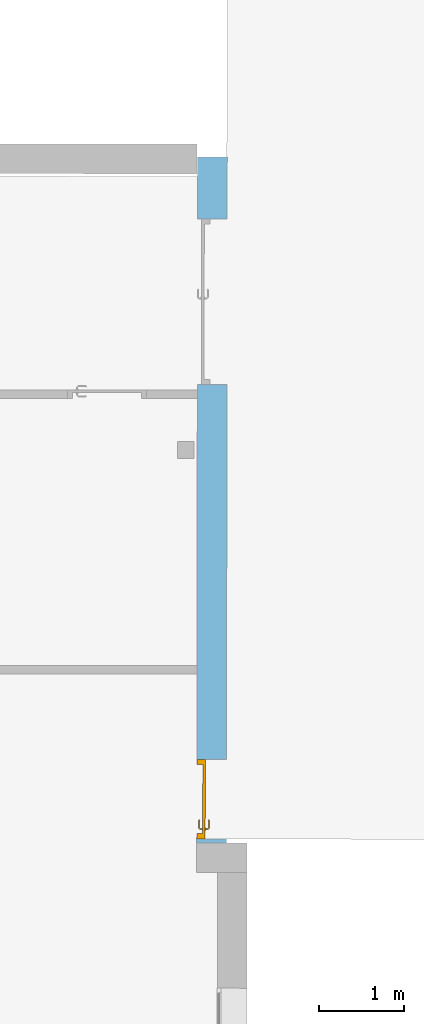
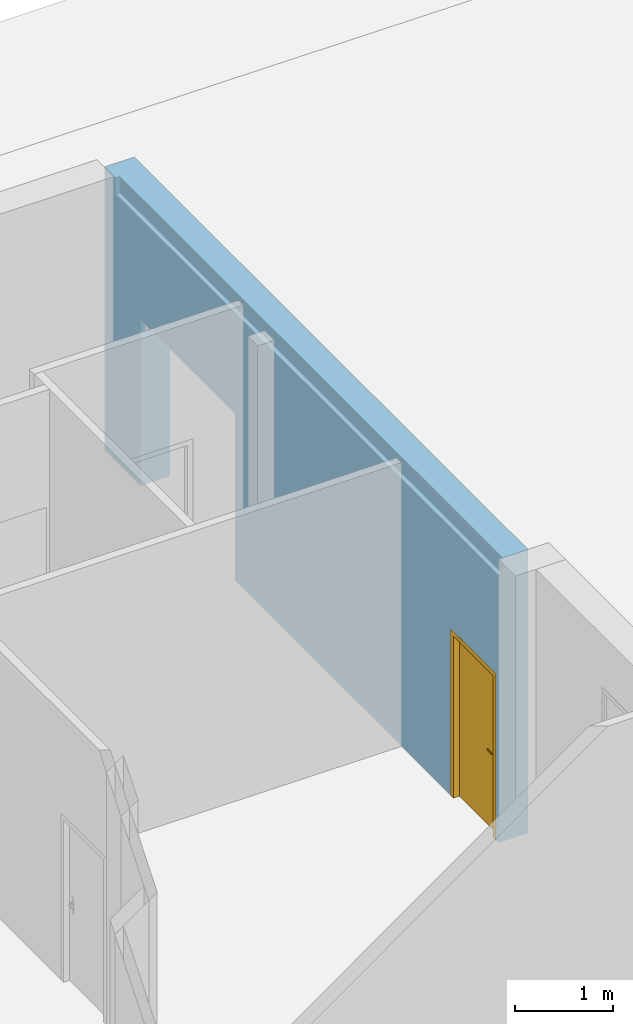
# One storey, part 95 of 101: 1 door, 2 openings, plus 1 element that does not belong to this part.
"""IFC2X3 building model written with IfcOpenShell, lengths in metres."""

from ifc_helpers import new_model, entity, si_unit, converted_unit, derived_unit, direction, frame, frame_2d, origin, place, context, subcontext, project, spatial, rectangle, extrude, faceted_brep, source, transform, mapped, material, material_list, layer, layer_set, type_object, type_shapes, element, fill, save


model = new_model("IFC2X3")

# Units and contexts
model_context = context("Model", 3, precision=1e-05, world=origin(), true_north=direction((6.123233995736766e-17, 1.0)))
body_context = subcontext(model_context, "Body", "Model", "MODEL_VIEW")
ifc_project = project(units=[si_unit("LENGTHUNIT", "METRE"), si_unit("AREAUNIT", "SQUARE_METRE"), converted_unit("PLANEANGLEUNIT", "DEGREE", entity("IfcPlaneAngleMeasure", 0.017453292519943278), si_unit("PLANEANGLEUNIT", "RADIAN"), dimensions=[0, 0, 0, 0, 0, 0, 0]), derived_unit("THERMALTRANSMITTANCEUNIT", [(si_unit("MASSUNIT", "GRAM", prefix="KILO"), 1), (si_unit("THERMODYNAMICTEMPERATUREUNIT", "KELVIN"), -1), (si_unit("TIMEUNIT", "SECOND"), -3)])], contexts=[model_context])

# Site, building, storey
site_placement = place(None, frame((1253.6752467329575, 2072.143113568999, 91.49999999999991), z_axis=(0.0, 0.0, 1.0), x_axis=(0.7237211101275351, 0.6900925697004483, 0.0)))
site = spatial("IfcSite", under=ifc_project, at=site_placement, Name="Surface", CompositionType="ELEMENT")
building_placement = place(site_placement, origin())
building = spatial("IfcBuilding", under=site, at=building_placement, CompositionType="ELEMENT")
storey_placement = place(building_placement, origin())
storey = spatial("IfcBuildingStorey", under=building, at=storey_placement, Name="0- Rdc", CompositionType="ELEMENT", Elevation=-5.764692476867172e-13)

# Wall, openings, door
ifc_material_1 = material(Name="OMD_Béton blanc")
ifc_layer = layer(ifc_material_1, 0.35)
ifc_layer_set = layer_set([ifc_layer], Name="Mur de base:MUR 35")
wall_type = type_object("IfcWallType", Name="Mur de base:MUR 35", PredefinedType="STANDARD", material=ifc_layer_set)
wall_placement = place(storey_placement, frame((201.35529017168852, -6.0522402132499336, 0.0), z_axis=(0.0, 0.0, 1.0), x_axis=(-0.6909838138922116, -0.7228702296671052, 0.0)))
wall = element("IfcWall", 1, at=wall_placement, inside=storey, type_object=wall_type, Name="Mur de base:MUR 35", ObjectType="Mur de base:MUR 35", context=body_context, shape_type="Brep", body=[
    faceted_brep([(0.0, -0.17500000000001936, 3.5499999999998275), (0.0, -0.17500000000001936, 0.0), (0.7314537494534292, -0.17500000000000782, 0.0), (0.7314537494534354, -0.1750000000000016, 2.085), (2.6814537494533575, -0.17499999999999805, 2.085), (2.6814537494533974, -0.17500000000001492, 0.0), (2.7490063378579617, -0.17500000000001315, 0.0), (2.8490063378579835, -0.17500000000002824, 0.0), (5.998901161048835, -0.17500000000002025, 0.0), (6.098901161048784, -0.1749999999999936, 0.0), (7.106401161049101, -0.17500000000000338, 0.0), (7.1064011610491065, -0.17499999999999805, 2.0850000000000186), (8.041401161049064, -0.17499999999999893, 2.0850000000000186), (8.04140116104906, -0.1750000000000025, 0.0), (8.088901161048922, -0.17500000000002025, 0.0), (8.088901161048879, -0.17500000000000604, 3.3499999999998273), (0.22730187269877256, -0.1750000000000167, 3.3499999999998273), (0.22730187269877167, -0.1750000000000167, 3.5499999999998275), (0.2263576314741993, -0.1750000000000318, 3.5499999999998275), (0.0, 0.1749999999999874, 0.0), (0.0, 0.1749999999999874, 3.5499999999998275), (0.2263576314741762, 0.1749999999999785, 3.5499999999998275), (0.7714537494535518, 0.17499999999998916, 3.5499999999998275), (2.3214537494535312, 0.17499999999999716, 3.5499999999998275), (8.04452833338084, 0.1749999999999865, 3.5499999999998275), (8.088901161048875, 0.17499999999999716, 3.5499999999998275), (8.088901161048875, 0.17499999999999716, 0.0), (8.044528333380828, 0.1749999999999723, 0.0), (8.04140116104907, 0.17499999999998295, 0.0), (8.04140116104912, 0.17500000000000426, 2.0850000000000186), (7.106401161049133, 0.17499999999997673, 2.0850000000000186), (7.106401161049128, 0.1749999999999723, 0.0), (2.68145374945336, 0.17500000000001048, 0.0), (2.6814537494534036, 0.17499999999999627, 2.085), (0.7314537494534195, 0.17499999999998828, 2.085), (0.7314537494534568, 0.17499999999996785, 0.0), (0.22730187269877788, -0.1249999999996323, 3.5499999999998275), (8.088901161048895, -0.1250000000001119, 3.5499999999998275), (8.088901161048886, -0.12500000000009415, 3.3499999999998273), (0.22730187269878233, -0.12499999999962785, 3.3499999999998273)], [[[0, 1, 2, 3, 4, 5, 6, 7, 8, 9, 10, 11, 12, 13, 14, 15, 16, 17, 18]], [[19, 20, 21, 22, 23, 24, 25, 26, 27, 28, 29, 30, 31, 32, 33, 34, 35]], [[1, 0, 20, 19]], [[25, 24, 23, 22, 21, 20, 0, 18, 17, 36, 37]], [[26, 14, 13, 28, 27]], [[26, 25, 37, 38, 15, 14]], [[4, 33, 32, 5]], [[33, 4, 3, 34]], [[34, 3, 2, 35]], [[13, 12, 29, 28]], [[12, 11, 30, 29]], [[11, 10, 31, 30]], [[38, 39, 16, 15]], [[39, 36, 17, 16]], [[36, 39, 38, 37]], [[5, 32, 31, 10, 9, 8, 7, 6]], [[1, 19, 35, 2]]]),
])
opening_1_placement = place(wall_placement, frame((2.681453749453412, 0.1750000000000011, 0.0)))
element("IfcOpeningElement", 2, at=opening_1_placement, cuts=wall, Name="OMD_Porte 2V tunnel:double 180x204:1", ObjectType="Opening", context=body_context, shape_type="SweptSolid", body=[
    extrude(rectangle(XDim=2.085, YDim=1.9499999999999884, at=frame_2d((1.0425, 0.974999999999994), x_axis=(1.0, 0.0))), frame((0.0, 0.0, 0.0), z_axis=(0.0, -1.0, 0.0), x_axis=(0.0, 0.0, 1.0)), (0.0, 0.0, 1.0), 0.35),
])
opening_2_placement = place(wall_placement, frame((7.1064011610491, -0.17500000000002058, 0.0)))
opening_2 = element("IfcOpeningElement", 3, at=opening_2_placement, cuts=wall, Name="OMD_Porte 1V tunnel:80x204:1", ObjectType="Opening", context=body_context, shape_type="SweptSolid", body=[
    extrude(rectangle(XDim=2.0850000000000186, YDim=0.9349999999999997, at=frame_2d((1.0425000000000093, 0.46749999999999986), x_axis=(1.0, 0.0))), frame((0.0, 0.0, 0.0), z_axis=(0.0, 1.0, 0.0), x_axis=(0.0, 0.0, 1.0)), (0.0, 0.0, 1.0), 0.35),
])
ifc_material_2 = material(Name="Porte - Poignée")
ifc_material_3 = material(Name="OMD_Peinture mur")
ifc_material_4 = material(Name="OMD_Bois")
ifc_material_list = material_list([ifc_material_2, ifc_material_3, ifc_material_4])
door_style = type_object("IfcDoorStyle", Name="OMD_Porte 1V tunnel:80x204", ConstructionType="NOTDEFINED", OperationType="NOTDEFINED", ParameterTakesPrecedence=False, Sizeable=False, material=ifc_material_list)
shared_shape = source(origin(), body_context, "Body", "Brep", [
    faceted_brep([(0.21297470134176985, 0.28500000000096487, 1.0077804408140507), (0.20900000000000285, 0.28500000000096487, 1.0069999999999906), (0.2089999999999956, 0.28500000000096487, 0.9929999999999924), (0.21297470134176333, 0.28500000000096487, 0.9922195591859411), (0.21702529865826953, 0.28500000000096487, 0.9922195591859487), (0.22100000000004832, 0.28500000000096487, 0.9930000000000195), (0.22100000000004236, 0.28500000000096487, 1.0069999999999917), (0.21702529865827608, 0.28500000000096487, 1.007780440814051), (0.22100000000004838, 0.3074852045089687, 0.9930000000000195), (0.22100000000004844, 0.3074852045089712, 1.0069999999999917), (0.21702529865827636, 0.3091315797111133, 1.007780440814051), (0.23083890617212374, 0.3229451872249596, 1.007780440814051), (0.2291610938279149, 0.3269957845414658, 1.0077804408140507), (0.21297470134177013, 0.3108093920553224, 1.0077804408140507), (0.3206847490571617, 0.3164673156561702, 1.0077804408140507), (0.3235489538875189, 0.3193315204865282, 1.0077804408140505), (0.315884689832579, 0.3269957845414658, 1.0077804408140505), (0.3142068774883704, 0.3229451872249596, 1.0077804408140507), (0.20900000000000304, 0.31245576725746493, 1.0069999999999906), (0.20900000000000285, 0.31245576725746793, 0.9929999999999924), (0.21297470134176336, 0.31080939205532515, 0.9922195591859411), (0.22916109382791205, 0.32699578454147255, 0.9922195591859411), (0.2308389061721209, 0.32294518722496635, 0.9922195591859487), (0.21702529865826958, 0.3091315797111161, 0.9922195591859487), (0.32354895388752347, 0.3193315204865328, 0.9922195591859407), (0.3206847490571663, 0.3164673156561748, 0.9922195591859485), (0.31420687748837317, 0.32294518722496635, 0.9922195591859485), (0.3158846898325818, 0.32699578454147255, 0.9922195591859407), (0.23248528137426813, 0.31897048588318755, 0.9930000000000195), (0.23248528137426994, 0.3189704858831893, 1.0069999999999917), (0.22751471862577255, 0.3309704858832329, 1.0069999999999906), (0.22751471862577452, 0.3309704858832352, 0.9929999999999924), (0.27252289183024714, 0.3189704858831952, 0.9930000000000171), (0.3125605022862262, 0.31897048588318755, 0.9930000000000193), (0.3125605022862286, 0.3189704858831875, 1.0069999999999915), (0.27252289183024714, 0.3189704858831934, 1.0069999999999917), (0.27252289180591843, 0.32512492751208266, 1.0078781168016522), (0.3175310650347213, 0.3309704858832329, 1.0069999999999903), (0.2776005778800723, 0.3309704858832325, 1.0069999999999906), (0.3175310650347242, 0.3309704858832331, 0.9929999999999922), (0.2674452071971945, 0.33097048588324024, 0.9929999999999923), (0.27252289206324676, 0.32512492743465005, 0.9921218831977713), (0.3178742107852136, 0.3136567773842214, 0.9930000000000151), (0.32635949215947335, 0.32214205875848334, 0.99299999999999), (0.32635949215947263, 0.3221420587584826, 1.0069999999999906), (0.3178742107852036, 0.31365677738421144, 1.0069999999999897)], [[[0, 1, 2, 3, 4, 5, 6, 7]], [[6, 5, 8, 9]], [[9, 10, 7, 6]], [[10, 11, 12, 13, 0, 7]], [[14, 15, 16, 17]], [[13, 18, 1, 0]], [[2, 1, 18, 19]], [[19, 20, 3, 2]], [[20, 21, 22, 23, 4, 3]], [[24, 25, 26, 27]], [[23, 8, 5, 4]], [[9, 8, 28, 29]], [[29, 11, 10, 9]], [[12, 30, 18, 13]], [[19, 18, 30, 31]], [[31, 21, 20, 19]], [[22, 28, 8, 23]], [[29, 28, 32, 33, 34, 35]], [[11, 35, 36]], [[16, 37, 38]], [[30, 12, 38]], [[38, 12, 36]], [[36, 35, 17]], [[17, 16, 36]], [[35, 11, 29]], [[34, 17, 35]], [[11, 36, 12]], [[38, 36, 16]], [[31, 30, 38, 37, 39, 40]], [[40, 41, 21]], [[41, 40, 27]], [[21, 31, 40]], [[39, 27, 40]], [[41, 32, 22]], [[22, 21, 41]], [[26, 32, 41]], [[28, 22, 32]], [[32, 26, 33]], [[26, 41, 27]], [[42, 25, 24, 43, 44, 15, 14, 45]], [[34, 33, 42, 45]], [[45, 14, 17, 34]], [[15, 44, 37, 16]], [[39, 37, 44, 43]], [[43, 24, 27, 39]], [[25, 42, 33, 26]]]),
    faceted_brep([(0.21297470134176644, 0.24500000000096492, 1.0077804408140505), (0.2170252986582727, 0.24500000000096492, 1.007780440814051), (0.2210000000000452, 0.24500000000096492, 1.006999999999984), (0.22100000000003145, 0.24500000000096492, 0.9930000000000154), (0.21702529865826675, 0.24500000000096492, 0.9922195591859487), (0.21297470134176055, 0.24500000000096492, 0.992219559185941), (0.20899999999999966, 0.24500000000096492, 0.992999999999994), (0.20900000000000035, 0.24500000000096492, 1.0069999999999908), (0.20900000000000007, 0.2173490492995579, 1.0069999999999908), (0.21297470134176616, 0.21899542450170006, 1.0077804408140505), (0.22902358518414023, 0.20294654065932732, 1.0077804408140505), (0.23070139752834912, 0.20699713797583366, 1.007780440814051), (0.21702529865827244, 0.22067323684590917, 1.007780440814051), (0.3235218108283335, 0.2106108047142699, 1.0077804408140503), (0.32065760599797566, 0.21347500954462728, 1.0077804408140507), (0.3141797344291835, 0.20699713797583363, 1.0077804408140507), (0.3158575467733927, 0.20294654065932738, 1.0077804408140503), (0.2210000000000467, 0.22231961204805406, 1.0069999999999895), (0.22100000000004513, 0.22231961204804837, 0.9930000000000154), (0.21702529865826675, 0.22067323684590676, 0.9922195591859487), (0.2307013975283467, 0.2069971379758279, 0.9922195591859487), (0.22902358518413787, 0.20294654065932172, 0.992219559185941), (0.21297470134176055, 0.21899542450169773, 0.992219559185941), (0.3206576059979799, 0.21347500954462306, 0.9922195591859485), (0.3235218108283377, 0.21061080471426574, 0.9922195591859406), (0.315857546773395, 0.20294654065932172, 0.9922195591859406), (0.3141797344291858, 0.20699713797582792, 0.9922195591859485), (0.20899999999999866, 0.21734904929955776, 0.9929999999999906), (0.22737720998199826, 0.19897183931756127, 1.0069999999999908), (0.23234777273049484, 0.2109718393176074, 1.0069999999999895), (0.23234777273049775, 0.2109718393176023, 0.9930000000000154), (0.22737720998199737, 0.19897183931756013, 0.9929999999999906), (0.2673076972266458, 0.19897183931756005, 1.0069999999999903), (0.2724405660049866, 0.20481719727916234, 1.0078781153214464), (0.3175039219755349, 0.19897183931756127, 1.0069999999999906), (0.2724405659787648, 0.21097183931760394, 1.0069999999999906), (0.31253335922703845, 0.21097183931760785, 1.0069999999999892), (0.31253335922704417, 0.2109718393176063, 0.9930000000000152), (0.27244056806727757, 0.21097183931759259, 0.9930000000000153), (0.2724405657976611, 0.20481719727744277, 0.9921218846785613), (0.3175039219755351, 0.19897183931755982, 0.9929999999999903), (0.27757344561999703, 0.19897183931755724, 0.9929999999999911), (0.3178470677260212, 0.2162855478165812, 1.0069999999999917), (0.3263323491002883, 0.20780026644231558, 1.0069999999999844), (0.32633234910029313, 0.20780026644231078, 0.9929999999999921), (0.31784706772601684, 0.2162855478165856, 0.9930000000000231)], [[[0, 1, 2, 3, 4, 5, 6, 7]], [[8, 9, 0, 7]], [[9, 10, 11, 12, 1, 0]], [[13, 14, 15, 16]], [[12, 17, 2, 1]], [[3, 2, 17, 18]], [[18, 19, 4, 3]], [[19, 20, 21, 22, 5, 4]], [[23, 24, 25, 26]], [[22, 27, 6, 5]], [[7, 6, 27, 8]], [[28, 10, 9, 8]], [[11, 29, 17, 12]], [[18, 17, 29, 30]], [[30, 20, 19, 18]], [[21, 31, 27, 22]], [[8, 27, 31, 28]], [[32, 33, 10]], [[33, 32, 16]], [[10, 28, 32]], [[34, 16, 32]], [[33, 35, 11]], [[11, 10, 33]], [[15, 35, 33]], [[29, 11, 35]], [[35, 15, 36]], [[15, 33, 16]], [[30, 29, 35, 36, 37, 38]], [[20, 38, 39]], [[25, 40, 41]], [[31, 21, 41]], [[41, 21, 39]], [[39, 38, 26]], [[26, 25, 39]], [[38, 20, 30]], [[37, 26, 38]], [[20, 39, 21]], [[41, 39, 25]], [[28, 31, 41, 40, 34, 32]], [[42, 14, 13, 43, 44, 24, 23, 45]], [[43, 13, 16, 34]], [[14, 42, 36, 15]], [[37, 36, 42, 45]], [[45, 23, 26, 37]], [[24, 44, 40, 25]], [[34, 40, 44, 43]]]),
    faceted_brep([(0.22535276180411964, 0.28000000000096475, 0.8660039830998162), (0.2350000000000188, 0.2800000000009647, 0.8700000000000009), (0.2350000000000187, 0.2800000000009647, 1.0800000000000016), (0.22535276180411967, 0.28000000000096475, 1.0839960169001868), (0.21500000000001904, 0.28000000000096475, 1.0853589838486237), (0.20464723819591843, 0.2800000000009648, 1.0839960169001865), (0.19500000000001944, 0.2800000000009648, 1.0800000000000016), (0.19500000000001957, 0.2800000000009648, 0.8700000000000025), (0.20464723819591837, 0.2800000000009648, 0.866003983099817), (0.21500000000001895, 0.28000000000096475, 0.8646410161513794), (0.22535276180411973, 0.28500000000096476, 1.0839960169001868), (0.2350000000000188, 0.2850000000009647, 1.0800000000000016), (0.23500000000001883, 0.2850000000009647, 0.8700000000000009), (0.22535276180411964, 0.28500000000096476, 0.8660039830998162), (0.21500000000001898, 0.28500000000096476, 0.8646410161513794), (0.20464723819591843, 0.2850000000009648, 0.866003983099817), (0.19500000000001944, 0.2850000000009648, 0.8700000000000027), (0.19500000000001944, 0.2850000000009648, 1.0800000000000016), (0.20464723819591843, 0.2850000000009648, 1.0839960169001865), (0.21500000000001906, 0.28500000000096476, 1.0853589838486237)], [[[0, 1, 2, 3, 4, 5, 6, 7, 8, 9]], [[10, 11, 12, 13, 14, 15, 16, 17, 18, 19]], [[11, 10, 3, 2]], [[3, 10, 19, 4]], [[19, 18, 5, 4]], [[18, 17, 6, 5]], [[7, 6, 17, 16]], [[16, 15, 8, 7]], [[8, 15, 14, 9]], [[14, 13, 0, 9]], [[13, 12, 1, 0]], [[2, 1, 12, 11]]]),
    faceted_brep([(0.2253527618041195, 0.24500000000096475, 0.8660039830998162), (0.2350000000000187, 0.2450000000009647, 0.8700000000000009), (0.23500000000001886, 0.2450000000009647, 1.0800000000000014), (0.22535276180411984, 0.24500000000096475, 1.0839960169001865), (0.21500000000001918, 0.24500000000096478, 1.0853589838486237), (0.20464723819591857, 0.2450000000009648, 1.0839960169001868), (0.19500000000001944, 0.24500000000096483, 1.0800000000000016), (0.1950000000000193, 0.24500000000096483, 0.8700000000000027), (0.20464723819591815, 0.2450000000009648, 0.8660039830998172), (0.21500000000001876, 0.24500000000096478, 0.8646410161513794), (0.22535276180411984, 0.25000000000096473, 1.0839960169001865), (0.2350000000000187, 0.25000000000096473, 1.0800000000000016), (0.2350000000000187, 0.25000000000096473, 0.8700000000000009), (0.2253527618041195, 0.25000000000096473, 0.8660039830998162), (0.21500000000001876, 0.2500000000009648, 0.8646410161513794), (0.20464723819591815, 0.25000000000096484, 0.8660039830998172), (0.1950000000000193, 0.25000000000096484, 0.8700000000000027), (0.19500000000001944, 0.25000000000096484, 1.0800000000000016), (0.20464723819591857, 0.25000000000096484, 1.0839960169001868), (0.21500000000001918, 0.2500000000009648, 1.0853589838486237)], [[[0, 1, 2, 3, 4, 5, 6, 7, 8, 9]], [[10, 11, 12, 13, 14, 15, 16, 17, 18, 19]], [[16, 15, 8, 7]], [[8, 15, 14, 9]], [[14, 13, 0, 9]], [[13, 12, 1, 0]], [[2, 1, 12, 11]], [[11, 10, 3, 2]], [[3, 10, 19, 4]], [[19, 18, 5, 4]], [[18, 17, 6, 5]], [[7, 6, 17, 16]]]),
    faceted_brep([(0.14500000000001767, 0.2800000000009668, 0.0), (0.990000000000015, 0.2800000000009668, 0.0), (0.990000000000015, 0.25000000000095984, 0.0), (0.14500000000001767, 0.25000000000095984, 0.0), (0.14500000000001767, 0.2800000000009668, 2.04), (0.14500000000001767, 0.25000000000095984, 2.04), (0.990000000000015, 0.25000000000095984, 2.04), (0.990000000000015, 0.2800000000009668, 2.04)], [[[0, 1, 2, 3]], [[4, 0, 3, 5]], [[5, 3, 2, 6]], [[6, 2, 1, 7]], [[7, 1, 0, 4]], [[4, 5, 6, 7]]]),
    faceted_brep([(0.10000000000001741, 0.2500000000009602, 0.0), (0.10000000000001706, 0.3500000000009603, 0.0), (0.16000000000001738, 0.3500000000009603, 0.0), (0.16000000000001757, 0.2800000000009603, 0.0), (0.1450000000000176, 0.2800000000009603, 0.0), (0.14500000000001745, 0.2500000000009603, 0.0), (0.14500000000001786, 0.2500000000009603, 2.0399999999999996), (0.990000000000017, 0.250000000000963, 2.0399999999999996), (0.9900000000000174, 0.250000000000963, 0.0), (1.0350000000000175, 0.2500000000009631, 0.0), (1.0350000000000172, 0.2500000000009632, 2.085), (0.10000000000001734, 0.2500000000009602, 2.0850000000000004), (0.1450000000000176, 0.2800000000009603, 2.0399999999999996), (0.16000000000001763, 0.2800000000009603, 2.025), (0.9750000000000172, 0.280000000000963, 2.0250000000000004), (0.9750000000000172, 0.280000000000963, 0.0), (0.990000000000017, 0.280000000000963, 0.0), (0.990000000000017, 0.28000000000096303, 2.0399999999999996), (0.1600000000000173, 0.3500000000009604, 2.025), (0.1000000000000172, 0.3500000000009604, 2.085), (1.035000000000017, 0.3500000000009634, 2.085), (1.035000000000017, 0.35000000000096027, 0.0), (0.9750000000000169, 0.3500000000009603, 0.0), (0.9750000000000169, 0.3500000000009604, 2.025)], [[[0, 1, 2, 3, 4, 5]], [[5, 6, 7, 8, 9, 10, 11, 0]], [[4, 12, 6, 5]], [[3, 13, 14, 15, 16, 17, 12, 4]], [[2, 18, 13, 3]], [[1, 19, 20, 21, 22, 23, 18, 2]], [[0, 11, 19, 1]], [[10, 9, 21, 20]], [[9, 8, 16, 15, 22, 21]], [[17, 16, 8, 7]], [[23, 22, 15, 14]], [[12, 17, 7, 6]], [[18, 23, 14, 13]], [[11, 10, 20, 19]]]),
])
type_shapes(door_style, [shared_shape])
door_placement = place(opening_2_placement, frame((1.0350000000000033, 0.35000000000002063, 0.0), z_axis=(0.0, 0.0, 1.0), x_axis=(-1.0, 0.0, 0.0)))
door = element("IfcDoor", 4, at=door_placement, inside=storey, type_object=door_style, material=ifc_material_list, Name="OMD_Porte 1V tunnel:80x204", ObjectType="OMD_Porte 1V tunnel:80x204", OverallHeight=2.0850000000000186, OverallWidth=0.9350000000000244, context=body_context, shape_type="MappedRepresentation", body=[
    mapped(shared_shape, transform((0.0, 0.0, 0.0), scale=1.0)),
])
fill(opening_2, door)

save(model, "model.ifc")
